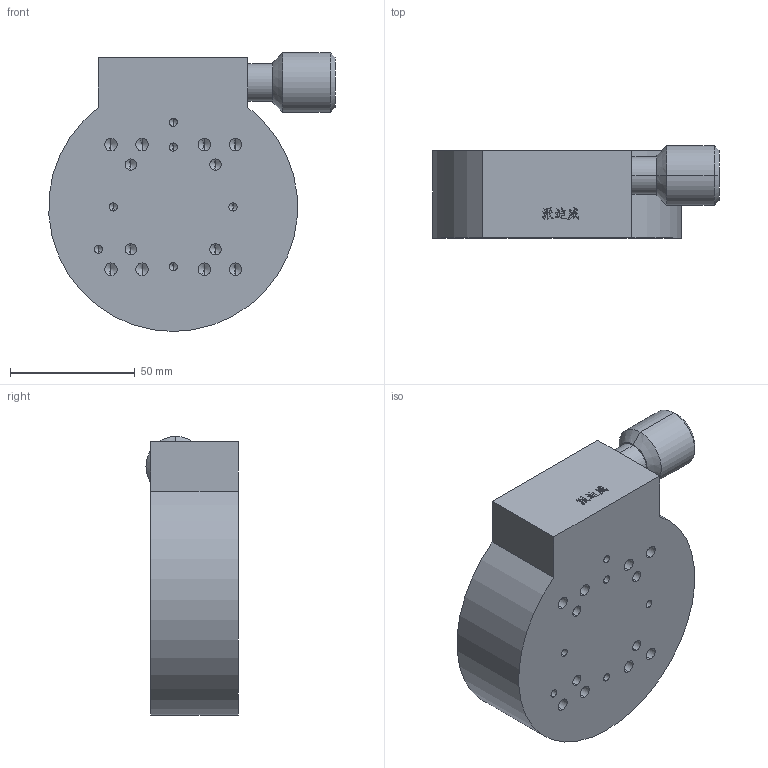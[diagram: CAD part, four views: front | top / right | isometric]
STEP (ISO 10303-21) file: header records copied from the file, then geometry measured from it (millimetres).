
FILE_DESCRIPTION (( 'STEP AP203' ), '1' );
FILE_NAME ('PT-SD203.STEP', '2022-09-03T10:01:19', ( '' ), ( '' ), 'SwSTEP 2.0', 'SolidWorks 2020', '' );
FILE_SCHEMA (( 'CONFIG_CONTROL_DESIGN' ));
Length unit declared in the file: millimetre
Products named in the file (1): PT-SD203
Bounding box: 114.87 x 37 x 112 mm (x, y, z)
Volume: 302835 mm3; surface area: 45116.7 mm2
Topology: 1 solids, 1 shells, 372 faces, 986 edges, 588 vertices
Faces by surface type: plane 110, cylinder 94, cone 87, bspline 81
Entity records: 13996 total; most frequent: CARTESIAN_POINT 5610, ORIENTED_EDGE 1808, DIRECTION 1491, EDGE_CURVE 904, VERTEX_POINT 588, LINE 525, VECTOR 525, AXIS2_PLACEMENT_3D 483
